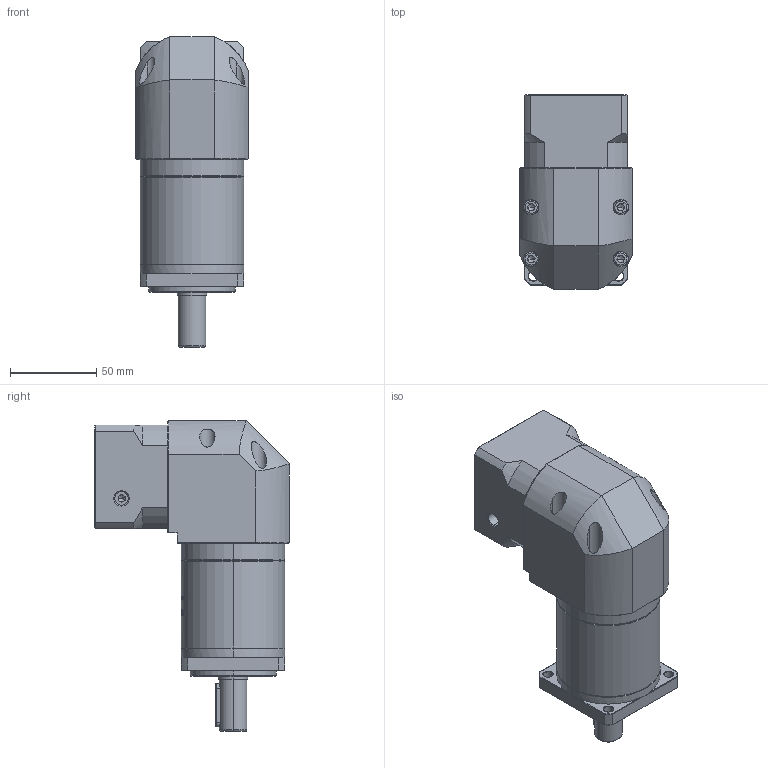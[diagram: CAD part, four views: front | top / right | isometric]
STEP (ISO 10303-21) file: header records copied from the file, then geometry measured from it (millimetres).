
FILE_DESCRIPTION (( 'STEP AP214' ), '1' );
FILE_NAME ('ZFR060-D16-L2-P2-11-50-70-M5.step', '2023-08-17T03:34:36', ( '' ), ( '' ), 'SwSTEP 2.0', 'SolidWorks 2016', '' );
FILE_SCHEMA (( 'AUTOMOTIVE_DESIGN' ));
Length unit declared in the file: millimetre
Products named in the file (1): ZFR060-D16-L2-P2-11-50-70-M5
Bounding box: 65 x 112.7 x 180 mm (x, y, z)
Volume: 587925.6 mm3; surface area: 82079.8 mm2
Topology: 5 solids, 6 shells, 1922 faces, 5153 edges, 3328 vertices
Faces by surface type: plane 847, cylinder 407, bspline 354, cone 290, torus 24
Entity records: 106602 total; most frequent: CARTESIAN_POINT 41534, ORIENTED_EDGE 10262, DIRECTION 7684, EDGE_CURVE 5131, VERTEX_POINT 3328, VECTOR 2614, LINE 2614, AXIS2_PLACEMENT_3D 2535
